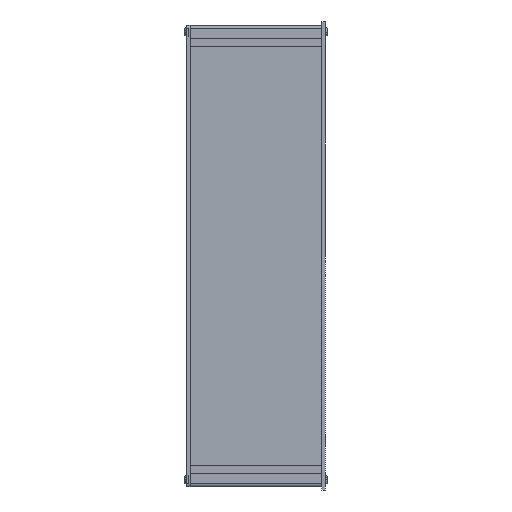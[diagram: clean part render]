
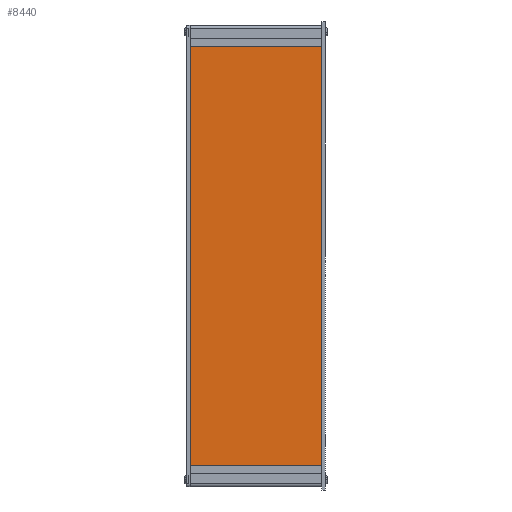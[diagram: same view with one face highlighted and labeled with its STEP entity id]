
A CAD part, left-side view. The second image highlights one B-rep face of the part: STEP entity #8440.
In plain terms, the highlighted planar face has unit normal (-1, 0, 0).
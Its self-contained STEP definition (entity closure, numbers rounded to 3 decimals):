
#932=PLANE('',#9294);
#1230=FACE_OUTER_BOUND('',#1760,.T.);
#1760=EDGE_LOOP('',(#6487,#6488,#6489,#6490));
#2504=LINE('',#13370,#3182);
#2514=LINE('',#13391,#3192);
#2515=LINE('',#13393,#3193);
#2516=LINE('',#13394,#3194);
#3182=VECTOR('',#10716,10.);
#3192=VECTOR('',#10734,10.);
#3193=VECTOR('',#10735,10.);
#3194=VECTOR('',#10736,10.);
#4160=VERTEX_POINT('',#13363);
#4163=VERTEX_POINT('',#13368);
#4170=VERTEX_POINT('',#13390);
#4171=VERTEX_POINT('',#13392);
#4995=EDGE_CURVE('',#4160,#4163,#2504,.T.);
#5005=EDGE_CURVE('',#4160,#4170,#2514,.T.);
#5006=EDGE_CURVE('',#4171,#4163,#2515,.T.);
#5007=EDGE_CURVE('',#4170,#4171,#2516,.T.);
#6487=ORIENTED_EDGE('',*,*,#5005,.F.);
#6488=ORIENTED_EDGE('',*,*,#4995,.T.);
#6489=ORIENTED_EDGE('',*,*,#5006,.F.);
#6490=ORIENTED_EDGE('',*,*,#5007,.F.);
#8440=ADVANCED_FACE('',(#1230),#932,.T.);
#9294=AXIS2_PLACEMENT_3D('',#13389,#10732,#10733);
#10716=DIRECTION('',(0.,1.,0.));
#10732=DIRECTION('center_axis',(-1.,0.,0.));
#10733=DIRECTION('ref_axis',(0.,0.,1.));
#10734=DIRECTION('',(0.,0.,-1.));
#10735=DIRECTION('',(0.,0.,1.));
#10736=DIRECTION('',(0.,1.,0.));
#13363=CARTESIAN_POINT('',(239.,0.,114.7));
#13368=CARTESIAN_POINT('',(239.,100.,114.7));
#13370=CARTESIAN_POINT('',(239.,0.,114.7));
#13389=CARTESIAN_POINT('Origin',(239.,0.,-202.8));
#13390=CARTESIAN_POINT('',(239.,0.,-202.8));
#13391=CARTESIAN_POINT('',(239.,0.,-44.05));
#13392=CARTESIAN_POINT('',(239.,100.,-202.8));
#13393=CARTESIAN_POINT('',(239.,100.,-44.05));
#13394=CARTESIAN_POINT('',(239.,0.,-202.8));
